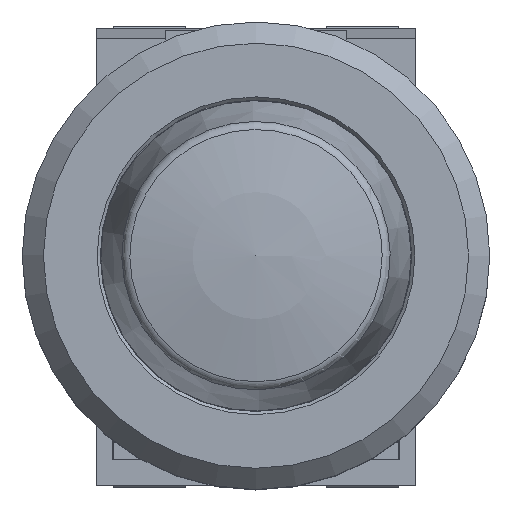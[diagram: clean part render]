
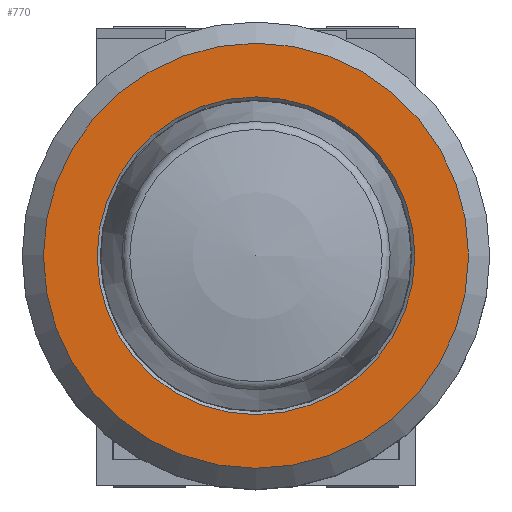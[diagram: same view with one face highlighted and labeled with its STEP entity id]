
A CAD part, top view. The second image highlights one B-rep face of the part: STEP entity #770.
In plain terms, the highlighted planar face has unit normal (0, 0, 1).
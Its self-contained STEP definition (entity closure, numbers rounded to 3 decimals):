
#719=CARTESIAN_POINT('',(14.95,-0.022,23.9));
#720=VERTEX_POINT('',#719);
#721=CARTESIAN_POINT('',(0.0,0.0,23.9));
#722=DIRECTION('',(0.0,0.0,1.0));
#723=DIRECTION('',(-1.,0.001,0.0));
#724=AXIS2_PLACEMENT_3D('',#721,#722,#723);
#725=CIRCLE('',#724,14.95);
#726=EDGE_CURVE('',#720,#720,#725,.T.);
#751=CARTESIAN_POINT('',(0.0,0.0,23.9));
#752=DIRECTION('',(0.0,0.0,-1.0));
#753=DIRECTION('',(-1.,0.001,0.0));
#754=AXIS2_PLACEMENT_3D('',#751,#752,#753);
#755=PLANE('',#754);
#756=CARTESIAN_POINT('',(20.,-0.03,23.9));
#757=VERTEX_POINT('',#756);
#758=CARTESIAN_POINT('',(0.0,0.0,23.9));
#759=DIRECTION('',(0.0,0.0,-1.0));
#760=DIRECTION('',(-1.,0.001,0.0));
#761=AXIS2_PLACEMENT_3D('',#758,#759,#760);
#762=CIRCLE('',#761,20.0);
#763=EDGE_CURVE('',#757,#757,#762,.T.);
#764=ORIENTED_EDGE('',*,*,#763,.F.);
#765=EDGE_LOOP('',(#764));
#766=FACE_OUTER_BOUND('',#765,.T.);
#767=ORIENTED_EDGE('',*,*,#726,.F.);
#768=EDGE_LOOP('',(#767));
#769=FACE_BOUND('',#768,.T.);
#770=ADVANCED_FACE('',(#766,#769),#755,.F.);
